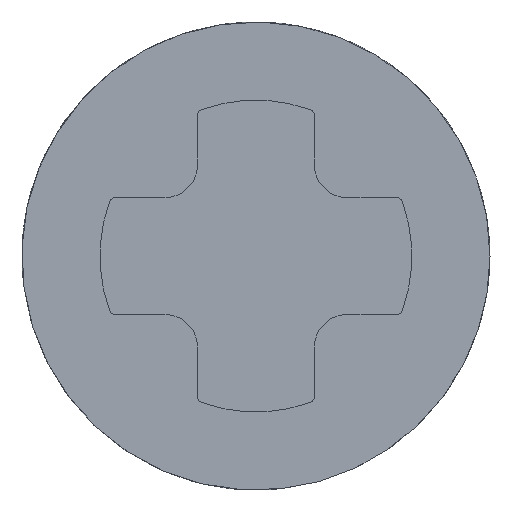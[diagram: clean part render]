
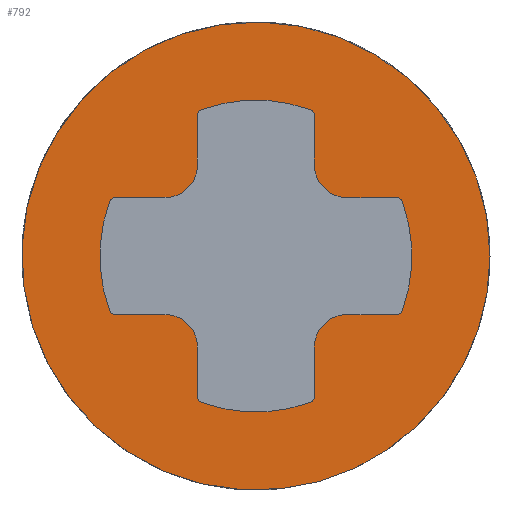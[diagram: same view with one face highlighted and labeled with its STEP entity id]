
A CAD part, front view. The second image highlights one B-rep face of the part: STEP entity #792.
In plain terms, the highlighted planar face has unit normal (0, -1, 0).
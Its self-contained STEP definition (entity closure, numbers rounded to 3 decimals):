
#41=LINE('',#1261,#97);
#42=LINE('',#1266,#98);
#43=LINE('',#1274,#99);
#44=LINE('',#1278,#100);
#45=LINE('',#1286,#101);
#46=LINE('',#1290,#102);
#47=LINE('',#1298,#103);
#48=LINE('',#1302,#104);
#97=VECTOR('',#1000,1000.);
#98=VECTOR('',#1003,1000.);
#99=VECTOR('',#1010,1000.);
#100=VECTOR('',#1013,1000.);
#101=VECTOR('',#1020,1000.);
#102=VECTOR('',#1023,1000.);
#103=VECTOR('',#1030,1000.);
#104=VECTOR('',#1033,1000.);
#149=PLANE('',#867);
#194=ORIENTED_EDGE('',*,*,#426,.T.);
#195=ORIENTED_EDGE('',*,*,#427,.T.);
#196=ORIENTED_EDGE('',*,*,#428,.T.);
#197=ORIENTED_EDGE('',*,*,#429,.T.);
#198=ORIENTED_EDGE('',*,*,#430,.T.);
#199=ORIENTED_EDGE('',*,*,#431,.T.);
#200=ORIENTED_EDGE('',*,*,#432,.T.);
#201=ORIENTED_EDGE('',*,*,#433,.T.);
#202=ORIENTED_EDGE('',*,*,#434,.T.);
#203=ORIENTED_EDGE('',*,*,#435,.T.);
#204=ORIENTED_EDGE('',*,*,#436,.T.);
#205=ORIENTED_EDGE('',*,*,#437,.T.);
#206=ORIENTED_EDGE('',*,*,#438,.T.);
#207=ORIENTED_EDGE('',*,*,#439,.T.);
#208=ORIENTED_EDGE('',*,*,#440,.T.);
#209=ORIENTED_EDGE('',*,*,#441,.T.);
#210=ORIENTED_EDGE('',*,*,#442,.T.);
#211=ORIENTED_EDGE('',*,*,#443,.T.);
#212=ORIENTED_EDGE('',*,*,#444,.T.);
#213=ORIENTED_EDGE('',*,*,#445,.T.);
#214=ORIENTED_EDGE('',*,*,#446,.T.);
#215=ORIENTED_EDGE('',*,*,#447,.T.);
#216=ORIENTED_EDGE('',*,*,#448,.T.);
#217=ORIENTED_EDGE('',*,*,#449,.T.);
#218=ORIENTED_EDGE('',*,*,#405,.F.);
#405=EDGE_CURVE('',#523,#523,#601,.T.);
#426=EDGE_CURVE('',#540,#541,#41,.T.);
#427=EDGE_CURVE('',#541,#542,#614,.F.);
#428=EDGE_CURVE('',#542,#543,#42,.T.);
#429=EDGE_CURVE('',#543,#544,#615,.T.);
#430=EDGE_CURVE('',#544,#545,#616,.T.);
#431=EDGE_CURVE('',#545,#546,#617,.T.);
#432=EDGE_CURVE('',#546,#547,#43,.T.);
#433=EDGE_CURVE('',#547,#548,#618,.F.);
#434=EDGE_CURVE('',#548,#549,#44,.T.);
#435=EDGE_CURVE('',#549,#550,#619,.T.);
#436=EDGE_CURVE('',#550,#551,#620,.T.);
#437=EDGE_CURVE('',#551,#552,#621,.T.);
#438=EDGE_CURVE('',#552,#553,#45,.T.);
#439=EDGE_CURVE('',#553,#554,#622,.F.);
#440=EDGE_CURVE('',#554,#555,#46,.T.);
#441=EDGE_CURVE('',#555,#556,#623,.T.);
#442=EDGE_CURVE('',#556,#557,#624,.T.);
#443=EDGE_CURVE('',#557,#558,#625,.T.);
#444=EDGE_CURVE('',#558,#559,#47,.T.);
#445=EDGE_CURVE('',#559,#560,#626,.F.);
#446=EDGE_CURVE('',#560,#561,#48,.T.);
#447=EDGE_CURVE('',#561,#562,#627,.T.);
#448=EDGE_CURVE('',#562,#563,#628,.T.);
#449=EDGE_CURVE('',#563,#540,#629,.T.);
#523=VERTEX_POINT('',#1219);
#540=VERTEX_POINT('',#1262);
#541=VERTEX_POINT('',#1263);
#542=VERTEX_POINT('',#1265);
#543=VERTEX_POINT('',#1267);
#544=VERTEX_POINT('',#1269);
#545=VERTEX_POINT('',#1271);
#546=VERTEX_POINT('',#1273);
#547=VERTEX_POINT('',#1275);
#548=VERTEX_POINT('',#1277);
#549=VERTEX_POINT('',#1279);
#550=VERTEX_POINT('',#1281);
#551=VERTEX_POINT('',#1283);
#552=VERTEX_POINT('',#1285);
#553=VERTEX_POINT('',#1287);
#554=VERTEX_POINT('',#1289);
#555=VERTEX_POINT('',#1291);
#556=VERTEX_POINT('',#1293);
#557=VERTEX_POINT('',#1295);
#558=VERTEX_POINT('',#1297);
#559=VERTEX_POINT('',#1299);
#560=VERTEX_POINT('',#1301);
#561=VERTEX_POINT('',#1303);
#562=VERTEX_POINT('',#1305);
#563=VERTEX_POINT('',#1307);
#601=CIRCLE('',#850,3.6);
#614=CIRCLE('',#868,0.5);
#615=CIRCLE('',#869,0.1);
#616=CIRCLE('',#870,2.4);
#617=CIRCLE('',#871,0.1);
#618=CIRCLE('',#872,0.5);
#619=CIRCLE('',#873,0.1);
#620=CIRCLE('',#874,2.4);
#621=CIRCLE('',#875,0.1);
#622=CIRCLE('',#876,0.5);
#623=CIRCLE('',#877,0.1);
#624=CIRCLE('',#878,2.4);
#625=CIRCLE('',#879,0.1);
#626=CIRCLE('',#880,0.5);
#627=CIRCLE('',#881,0.1);
#628=CIRCLE('',#882,2.4);
#629=CIRCLE('',#883,0.1);
#661=EDGE_LOOP('',(#194,#195,#196,#197,#198,#199,#200,#201,#202,#203,#204,
#205,#206,#207,#208,#209,#210,#211,#212,#213,#214,#215,#216,#217));
#662=EDGE_LOOP('',(#218));
#717=FACE_BOUND('',#661,.T.);
#718=FACE_BOUND('',#662,.T.);
#792=ADVANCED_FACE('',(#717,#718),#149,.F.);
#850=AXIS2_PLACEMENT_3D('',#1218,#956,#957);
#867=AXIS2_PLACEMENT_3D('',#1260,#998,#999);
#868=AXIS2_PLACEMENT_3D('',#1264,#1001,#1002);
#869=AXIS2_PLACEMENT_3D('',#1268,#1004,#1005);
#870=AXIS2_PLACEMENT_3D('',#1270,#1006,#1007);
#871=AXIS2_PLACEMENT_3D('',#1272,#1008,#1009);
#872=AXIS2_PLACEMENT_3D('',#1276,#1011,#1012);
#873=AXIS2_PLACEMENT_3D('',#1280,#1014,#1015);
#874=AXIS2_PLACEMENT_3D('',#1282,#1016,#1017);
#875=AXIS2_PLACEMENT_3D('',#1284,#1018,#1019);
#876=AXIS2_PLACEMENT_3D('',#1288,#1021,#1022);
#877=AXIS2_PLACEMENT_3D('',#1292,#1024,#1025);
#878=AXIS2_PLACEMENT_3D('',#1294,#1026,#1027);
#879=AXIS2_PLACEMENT_3D('',#1296,#1028,#1029);
#880=AXIS2_PLACEMENT_3D('',#1300,#1031,#1032);
#881=AXIS2_PLACEMENT_3D('',#1304,#1034,#1035);
#882=AXIS2_PLACEMENT_3D('',#1306,#1036,#1037);
#883=AXIS2_PLACEMENT_3D('',#1308,#1038,#1039);
#956=DIRECTION('',(0.,1.,0.));
#957=DIRECTION('',(1.,0.,0.));
#998=DIRECTION('',(0.,1.,0.));
#999=DIRECTION('',(0.,0.,1.));
#1000=DIRECTION('',(1.,0.,0.));
#1001=DIRECTION('',(0.,1.,0.));
#1002=DIRECTION('',(0.,0.,1.));
#1003=DIRECTION('',(0.,0.,1.));
#1004=DIRECTION('',(0.,1.,0.));
#1005=DIRECTION('',(0.,0.,1.));
#1006=DIRECTION('',(0.,1.,0.));
#1007=DIRECTION('',(1.,0.,0.));
#1008=DIRECTION('',(0.,1.,0.));
#1009=DIRECTION('',(0.,0.,1.));
#1010=DIRECTION('',(0.,0.,-1.));
#1011=DIRECTION('',(0.,1.,0.));
#1012=DIRECTION('',(0.,0.,1.));
#1013=DIRECTION('',(1.,0.,0.));
#1014=DIRECTION('',(0.,1.,0.));
#1015=DIRECTION('',(0.,0.,1.));
#1016=DIRECTION('',(0.,1.,0.));
#1017=DIRECTION('',(-1.,0.,0.));
#1018=DIRECTION('',(0.,1.,0.));
#1019=DIRECTION('',(0.,0.,1.));
#1020=DIRECTION('',(-1.,0.,0.));
#1021=DIRECTION('',(0.,1.,0.));
#1022=DIRECTION('',(0.,0.,1.));
#1023=DIRECTION('',(0.,0.,-1.));
#1024=DIRECTION('',(0.,1.,0.));
#1025=DIRECTION('',(0.,0.,1.));
#1026=DIRECTION('',(0.,1.,0.));
#1027=DIRECTION('',(1.,0.,0.));
#1028=DIRECTION('',(0.,1.,0.));
#1029=DIRECTION('',(0.,0.,1.));
#1030=DIRECTION('',(0.,0.,1.));
#1031=DIRECTION('',(0.,1.,0.));
#1032=DIRECTION('',(0.,0.,1.));
#1033=DIRECTION('',(-1.,0.,0.));
#1034=DIRECTION('',(0.,1.,0.));
#1035=DIRECTION('',(0.,0.,1.));
#1036=DIRECTION('',(0.,1.,0.));
#1037=DIRECTION('',(1.,0.,0.));
#1038=DIRECTION('',(0.,1.,0.));
#1039=DIRECTION('',(0.,0.,1.));
#1218=CARTESIAN_POINT('',(0.,0.,0.));
#1219=CARTESIAN_POINT('',(3.6,0.,0.));
#1260=CARTESIAN_POINT('',(0.,0.,0.));
#1261=CARTESIAN_POINT('',(-0.9,0.,0.9));
#1262=CARTESIAN_POINT('',(-2.156,0.,0.9));
#1263=CARTESIAN_POINT('',(-1.4,0.,0.9));
#1264=CARTESIAN_POINT('',(-1.4,0.,1.4));
#1265=CARTESIAN_POINT('',(-0.9,0.,1.4));
#1266=CARTESIAN_POINT('',(-0.9,0.,0.9));
#1267=CARTESIAN_POINT('',(-0.9,0.,2.156));
#1268=CARTESIAN_POINT('',(-0.8,0.,2.156));
#1269=CARTESIAN_POINT('',(-0.835,0.,2.25));
#1270=CARTESIAN_POINT('',(0.,0.,0.));
#1271=CARTESIAN_POINT('',(0.835,0.,2.25));
#1272=CARTESIAN_POINT('',(0.8,0.,2.156));
#1273=CARTESIAN_POINT('',(0.9,0.,2.156));
#1274=CARTESIAN_POINT('',(0.9,0.,0.9));
#1275=CARTESIAN_POINT('',(0.9,0.,1.4));
#1276=CARTESIAN_POINT('',(1.4,0.,1.4));
#1277=CARTESIAN_POINT('',(1.4,0.,0.9));
#1278=CARTESIAN_POINT('',(0.9,0.,0.9));
#1279=CARTESIAN_POINT('',(2.156,0.,0.9));
#1280=CARTESIAN_POINT('',(2.156,0.,0.8));
#1281=CARTESIAN_POINT('',(2.25,0.,0.835));
#1282=CARTESIAN_POINT('',(0.,0.,0.));
#1283=CARTESIAN_POINT('',(2.25,0.,-0.835));
#1284=CARTESIAN_POINT('',(2.156,0.,-0.8));
#1285=CARTESIAN_POINT('',(2.156,0.,-0.9));
#1286=CARTESIAN_POINT('',(0.9,0.,-0.9));
#1287=CARTESIAN_POINT('',(1.4,0.,-0.9));
#1288=CARTESIAN_POINT('',(1.4,0.,-1.4));
#1289=CARTESIAN_POINT('',(0.9,0.,-1.4));
#1290=CARTESIAN_POINT('',(0.9,0.,-0.9));
#1291=CARTESIAN_POINT('',(0.9,0.,-2.156));
#1292=CARTESIAN_POINT('',(0.8,0.,-2.156));
#1293=CARTESIAN_POINT('',(0.835,0.,-2.25));
#1294=CARTESIAN_POINT('',(0.,0.,0.));
#1295=CARTESIAN_POINT('',(-0.835,0.,-2.25));
#1296=CARTESIAN_POINT('',(-0.8,0.,-2.156));
#1297=CARTESIAN_POINT('',(-0.9,0.,-2.156));
#1298=CARTESIAN_POINT('',(-0.9,0.,-0.9));
#1299=CARTESIAN_POINT('',(-0.9,0.,-1.4));
#1300=CARTESIAN_POINT('',(-1.4,0.,-1.4));
#1301=CARTESIAN_POINT('',(-1.4,0.,-0.9));
#1302=CARTESIAN_POINT('',(-0.9,0.,-0.9));
#1303=CARTESIAN_POINT('',(-2.156,0.,-0.9));
#1304=CARTESIAN_POINT('',(-2.156,0.,-0.8));
#1305=CARTESIAN_POINT('',(-2.25,0.,-0.835));
#1306=CARTESIAN_POINT('',(0.,0.,0.));
#1307=CARTESIAN_POINT('',(-2.25,0.,0.835));
#1308=CARTESIAN_POINT('',(-2.156,0.,0.8));
